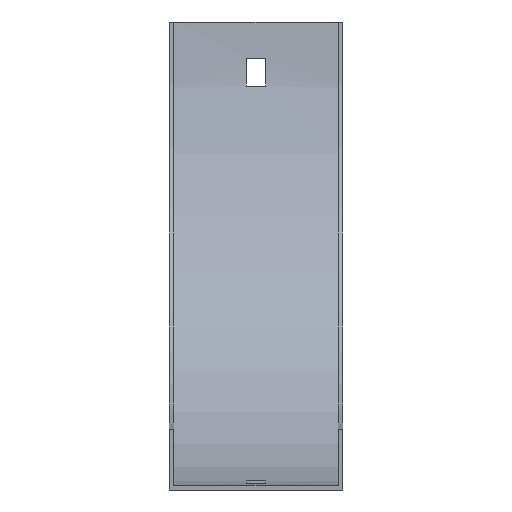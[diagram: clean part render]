
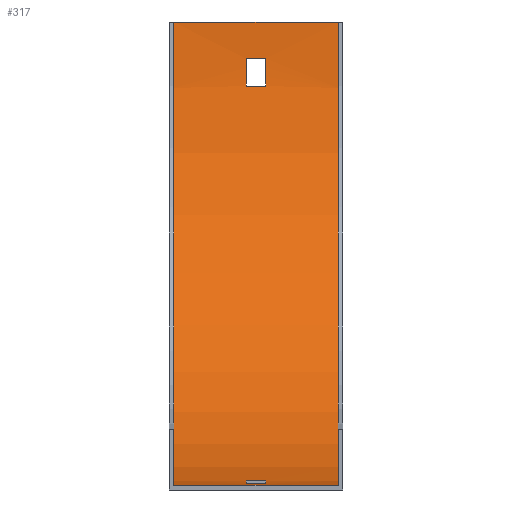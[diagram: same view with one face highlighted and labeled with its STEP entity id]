
A CAD part, front view. The second image highlights one B-rep face of the part: STEP entity #317.
In plain terms, the highlighted cylindrical face has radius 152 mm (diameter 304 mm), a partial arc.
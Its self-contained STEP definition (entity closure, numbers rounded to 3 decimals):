
#9 = VECTOR ( 'NONE', #88, 1000. ) ;
#24 = VERTEX_POINT ( 'NONE', #195 ) ;
#30 = FACE_OUTER_BOUND ( 'NONE', #583, .T. ) ;
#33 = CARTESIAN_POINT ( 'NONE',  ( -3.25, -141.5, -151.526 ) ) ;
#35 = DIRECTION ( 'NONE',  ( 0., 0., 1. ) ) ;
#49 = CARTESIAN_POINT ( 'NONE',  ( 27., -153.5, -152. ) ) ;
#50 = CARTESIAN_POINT ( 'NONE',  ( -27., -153.5, 0. ) ) ;
#55 = DIRECTION ( 'NONE',  ( 1., 0., 0. ) ) ;
#60 = AXIS2_PLACEMENT_3D ( 'NONE', #586, #453, #332 ) ;
#61 = DIRECTION ( 'NONE',  ( 1., 0., 0. ) ) ;
#64 = EDGE_CURVE ( 'NONE', #470, #179, #293, .T. ) ;
#68 = DIRECTION ( 'NONE',  ( -1., 0., 0. ) ) ;
#70 = DIRECTION ( 'NONE',  ( 0., 0., 1. ) ) ;
#79 = CARTESIAN_POINT ( 'NONE',  ( 28.5, -141.5, -151.526 ) ) ;
#80 = CARTESIAN_POINT ( 'NONE',  ( 3.25, -153.5, 0. ) ) ;
#83 = DIRECTION ( 'NONE',  ( -1., 0., 0. ) ) ;
#88 = DIRECTION ( 'NONE',  ( -1., 0., 0. ) ) ;
#95 = DIRECTION ( 'NONE',  ( 0., 0., -1. ) ) ;
#96 = CYLINDRICAL_SURFACE ( 'NONE', #60, 152. ) ;
#98 = AXIS2_PLACEMENT_3D ( 'NONE', #262, #415, #95 ) ;
#107 = ORIENTED_EDGE ( 'NONE', *, *, #64, .T. ) ;
#110 = EDGE_CURVE ( 'NONE', #545, #592, #153, .T. ) ;
#118 = DIRECTION ( 'NONE',  ( 0., 0., 1. ) ) ;
#126 = AXIS2_PLACEMENT_3D ( 'NONE', #395, #325, #35 ) ;
#127 = CARTESIAN_POINT ( 'NONE',  ( -3.25, -2.958, -21. ) ) ;
#129 = EDGE_CURVE ( 'NONE', #592, #426, #576, .T. ) ;
#145 = FACE_BOUND ( 'NONE', #500, .T. ) ;
#149 = DIRECTION ( 'NONE',  ( 1., 0., 0. ) ) ;
#152 = EDGE_CURVE ( 'NONE', #426, #368, #228, .T. ) ;
#153 = LINE ( 'NONE', #488, #529 ) ;
#165 = VERTEX_POINT ( 'NONE', #553 ) ;
#166 = DIRECTION ( 'NONE',  ( 1., 0., 0. ) ) ;
#167 = LINE ( 'NONE', #79, #314 ) ;
#172 = LINE ( 'NONE', #49, #175 ) ;
#175 = VECTOR ( 'NONE', #83, 1000. ) ;
#179 = VERTEX_POINT ( 'NONE', #268 ) ;
#181 = EDGE_CURVE ( 'NONE', #444, #581, #387, .T. ) ;
#195 = CARTESIAN_POINT ( 'NONE',  ( -27., -153.5, -152. ) ) ;
#205 = EDGE_CURVE ( 'NONE', #470, #24, #172, .T. ) ;
#210 = AXIS2_PLACEMENT_3D ( 'NONE', #80, #588, #118 ) ;
#213 = CARTESIAN_POINT ( 'NONE',  ( 28.5, -132.5, -150.542 ) ) ;
#228 = LINE ( 'NONE', #411, #9 ) ;
#236 = CARTESIAN_POINT ( 'NONE',  ( 27., -153.5, 0. ) ) ;
#238 = LINE ( 'NONE', #336, #438 ) ;
#248 = ORIENTED_EDGE ( 'NONE', *, *, #205, .F. ) ;
#255 = CARTESIAN_POINT ( 'NONE',  ( 3.25, -141.5, -151.526 ) ) ;
#261 = AXIS2_PLACEMENT_3D ( 'NONE', #391, #521, #273 ) ;
#262 = CARTESIAN_POINT ( 'NONE',  ( -3.25, -153.5, 0. ) ) ;
#268 = CARTESIAN_POINT ( 'NONE',  ( 27., -1.5, 0. ) ) ;
#273 = DIRECTION ( 'NONE',  ( 0., 0., -1. ) ) ;
#279 = DIRECTION ( 'NONE',  ( 0., 0., 1. ) ) ;
#293 = CIRCLE ( 'NONE', #557, 152. ) ;
#299 = CARTESIAN_POINT ( 'NONE',  ( -3.25, -132.5, -150.542 ) ) ;
#300 = VERTEX_POINT ( 'NONE', #301 ) ;
#301 = CARTESIAN_POINT ( 'NONE',  ( 3.25, -132.5, -150.542 ) ) ;
#312 = CARTESIAN_POINT ( 'NONE',  ( 3.25, -1.974, -12. ) ) ;
#314 = VECTOR ( 'NONE', #68, 1000. ) ;
#317 = ADVANCED_FACE ( 'NONE', ( #498, #30, #145 ), #96, .F. ) ;
#325 = DIRECTION ( 'NONE',  ( -1., 0., 0. ) ) ;
#332 = DIRECTION ( 'NONE',  ( 0., 0., 1. ) ) ;
#336 = CARTESIAN_POINT ( 'NONE',  ( 27., -1.5, 0. ) ) ;
#349 = ORIENTED_EDGE ( 'NONE', *, *, #152, .F. ) ;
#352 = ORIENTED_EDGE ( 'NONE', *, *, #597, .T. ) ;
#368 = VERTEX_POINT ( 'NONE', #482 ) ;
#372 = EDGE_CURVE ( 'NONE', #24, #165, #478, .T. ) ;
#377 = CIRCLE ( 'NONE', #210, 152. ) ;
#387 = CIRCLE ( 'NONE', #98, 152. ) ;
#391 = CARTESIAN_POINT ( 'NONE',  ( 3.25, -153.5, 0. ) ) ;
#395 = CARTESIAN_POINT ( 'NONE',  ( -3.25, -153.5, 0. ) ) ;
#400 = ORIENTED_EDGE ( 'NONE', *, *, #469, .T. ) ;
#411 = CARTESIAN_POINT ( 'NONE',  ( 28.5, -1.974, -12. ) ) ;
#415 = DIRECTION ( 'NONE',  ( 1., 0., 0. ) ) ;
#417 = VERTEX_POINT ( 'NONE', #255 ) ;
#426 = VERTEX_POINT ( 'NONE', #312 ) ;
#433 = CIRCLE ( 'NONE', #126, 152. ) ;
#438 = VECTOR ( 'NONE', #584, 1000. ) ;
#444 = VERTEX_POINT ( 'NONE', #33 ) ;
#447 = ORIENTED_EDGE ( 'NONE', *, *, #181, .T. ) ;
#451 = VECTOR ( 'NONE', #166, 1000. ) ;
#452 = ORIENTED_EDGE ( 'NONE', *, *, #589, .F. ) ;
#453 = DIRECTION ( 'NONE',  ( -1., 0., 0. ) ) ;
#461 = EDGE_CURVE ( 'NONE', #417, #444, #167, .T. ) ;
#466 = ORIENTED_EDGE ( 'NONE', *, *, #372, .F. ) ;
#469 = EDGE_CURVE ( 'NONE', #581, #300, #546, .T. ) ;
#470 = VERTEX_POINT ( 'NONE', #532 ) ;
#478 = CIRCLE ( 'NONE', #585, 152. ) ;
#482 = CARTESIAN_POINT ( 'NONE',  ( -3.25, -1.974, -12. ) ) ;
#488 = CARTESIAN_POINT ( 'NONE',  ( 28.5, -2.958, -21. ) ) ;
#489 = ORIENTED_EDGE ( 'NONE', *, *, #461, .T. ) ;
#495 = CARTESIAN_POINT ( 'NONE',  ( 3.25, -2.958, -21. ) ) ;
#496 = ORIENTED_EDGE ( 'NONE', *, *, #514, .T. ) ;
#498 = FACE_BOUND ( 'NONE', #558, .T. ) ;
#500 = EDGE_LOOP ( 'NONE', ( #489, #447, #400, #352 ) ) ;
#502 = ORIENTED_EDGE ( 'NONE', *, *, #129, .F. ) ;
#514 = EDGE_CURVE ( 'NONE', #179, #165, #238, .T. ) ;
#521 = DIRECTION ( 'NONE',  ( 1., 0., 0. ) ) ;
#529 = VECTOR ( 'NONE', #61, 1000. ) ;
#532 = CARTESIAN_POINT ( 'NONE',  ( 27., -153.5, -152. ) ) ;
#545 = VERTEX_POINT ( 'NONE', #127 ) ;
#546 = LINE ( 'NONE', #213, #451 ) ;
#553 = CARTESIAN_POINT ( 'NONE',  ( -27., -1.5, 0. ) ) ;
#557 = AXIS2_PLACEMENT_3D ( 'NONE', #236, #149, #279 ) ;
#558 = EDGE_LOOP ( 'NONE', ( #452, #349, #502, #582 ) ) ;
#576 = CIRCLE ( 'NONE', #261, 152. ) ;
#581 = VERTEX_POINT ( 'NONE', #299 ) ;
#582 = ORIENTED_EDGE ( 'NONE', *, *, #110, .F. ) ;
#583 = EDGE_LOOP ( 'NONE', ( #466, #248, #107, #496 ) ) ;
#584 = DIRECTION ( 'NONE',  ( -1., 0., 0. ) ) ;
#585 = AXIS2_PLACEMENT_3D ( 'NONE', #50, #55, #70 ) ;
#586 = CARTESIAN_POINT ( 'NONE',  ( 28.5, -153.5, 0. ) ) ;
#588 = DIRECTION ( 'NONE',  ( -1., 0., 0. ) ) ;
#589 = EDGE_CURVE ( 'NONE', #368, #545, #433, .T. ) ;
#592 = VERTEX_POINT ( 'NONE', #495 ) ;
#597 = EDGE_CURVE ( 'NONE', #300, #417, #377, .T. ) ;
